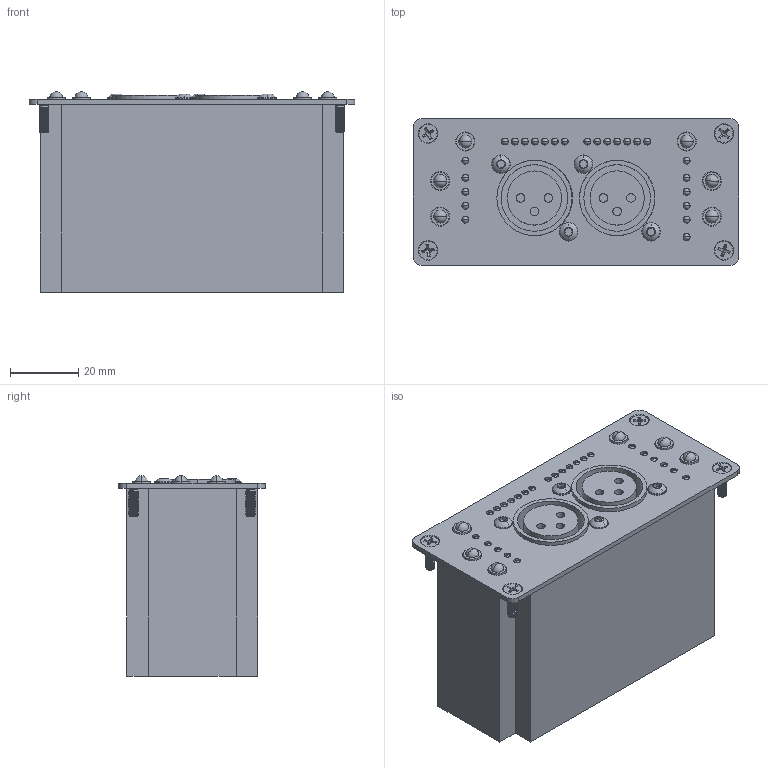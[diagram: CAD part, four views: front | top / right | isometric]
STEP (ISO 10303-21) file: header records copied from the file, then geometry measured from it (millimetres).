
FILE_DESCRIPTION (( 'STEP AP214' ), '1' );
FILE_NAME ('Model5110S.STEP', '2012-07-03T16:15:21', ( 'Mike' ), ( 'Windows User' ), 'SwSTEP 2.0', 'SolidWorks 2012', '' );
FILE_SCHEMA (( 'AUTOMOTIVE_DESIGN' ));
Length unit declared in the file: inch
Products named in the file (10): 5110Filler; 4-40_FHMS_91771A108; 4-40_BHCS_4-40 BHCS X .250; 03145; 12086; 01326 (aprox); 03146; 03144; 5510Panel; Model5110S
Assembly tree (43 placements, depth 2):
  Model5110S
    5510Panel
    03144  x16
    03146  x6
    01326 (aprox)  x2
    12086  x6
    03145  x3
    4-40_BHCS_4-40 BHCS X .250  x4
    4-40_FHMS_91771A108  x4
    5110Filler
Bounding box: 95.25 x 42.85 x 58.7 mm (x, y, z)
Volume: 90376.3 mm3; surface area: 54041.8 mm2
Topology: 43 solids, 43 shells, 1337 faces, 3414 edges, 2169 vertices
Faces by surface type: cylinder 592, plane 375, cone 284, sphere 70, torus 8, bspline 8
Entity records: 18579 total; most frequent: CARTESIAN_POINT 7285, DIRECTION 2172, ORIENTED_EDGE 2158, EDGE_CURVE 1079, AXIS2_PLACEMENT_3D 848, VERTEX_POINT 697, EDGE_LOOP 524, LINE 476
